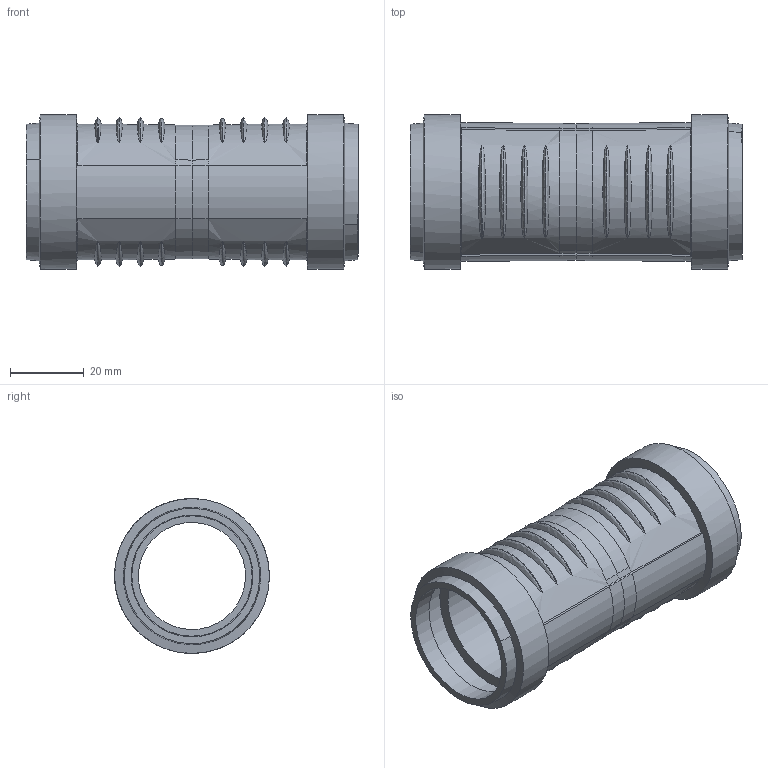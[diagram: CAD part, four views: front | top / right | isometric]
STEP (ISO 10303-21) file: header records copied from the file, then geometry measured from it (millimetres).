
FILE_DESCRIPTION(/* description */ (''),/* implementation_level */ '2;1');
FILE_NAME(/* name */ 'C:\Planerdaten\Export PLA\390.016.14.1\stp\390016.stp',/* time_stamp */ '2022-03-31T11:53:14+02:00',/* author */ ('JANAN'),/* organization */ (''),/* preprocessor_version */ 'ST-DEVELOPER v16.13',/* originating_system */ 'Autodesk Inventor 2018',/* authorisation */ '');
FILE_SCHEMA (('AUTOMOTIVE_DESIGN { 1 0 10303 214 3 1 1 }'));
Length unit declared in the file: millimetre
Products named in the file (1): tmpA08.tmp
Bounding box: 90 x 41.99 x 41.99 mm (x, y, z)
Volume: 23468.2 mm3; surface area: 23964.3 mm2
Topology: 1 solids, 1 shells, 85 faces, 179 edges, 116 vertices
Faces by surface type: bspline 60, cylinder 9, cone 8, plane 8
Full cylindrical faces by diameter (mm): 29.05 x1, 32.65 x2, 33 x2, 38.4 x2, 42 x2
Entity records: 11014 total; most frequent: CARTESIAN_POINT 9413, ORIENTED_EDGE 320, DIRECTION 244, EDGE_CURVE 160, EDGE_LOOP 124, AXIS2_PLACEMENT_3D 122, VERTEX_POINT 114, CIRCLE 94
